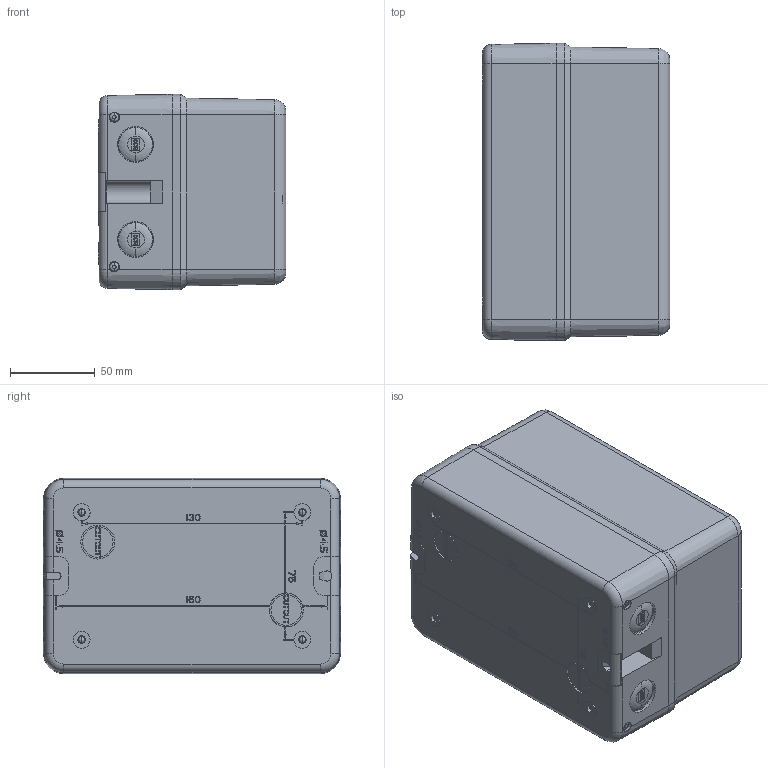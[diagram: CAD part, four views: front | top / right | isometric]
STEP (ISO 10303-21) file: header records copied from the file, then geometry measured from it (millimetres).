
FILE_DESCRIPTION((''),'2;1');
FILE_NAME('32ENSASSYFINAL_ASM','2023-07-17T10:54:39',('design1'),(''),'CREO PARAMETRIC BY PTC INC, 2022284','CREO PARAMETRIC BY PTC INC, 2022284','');
FILE_SCHEMA(('CONFIG_CONTROL_DESIGN'));
Products named in the file (3): 32ENSBOTTOMFINAL; 32AENSTOPFINAL; 32ENSASSYFINAL_ASM
Assembly tree (2 placements, depth 2):
  32ENSASSYFINAL_ASM
    32ENSBOTTOMFINAL
    32AENSTOPFINAL
Bounding box: 110.5 x 175 x 115 mm (x, y, z)
Volume: 292731.9 mm3; surface area: 240879.5 mm2
Topology: 2 solids, 2 shells, 2181 faces, 5960 edges, 3938 vertices
Faces by surface type: plane 1796, cylinder 277, cone 44, bspline 40, torus 24
Entity records: 70941 total; most frequent: CARTESIAN_POINT 15315, ORIENTED_EDGE 11920, DIRECTION 10792, EDGE_CURVE 5960, VECTOR 5140, LINE 5140, VERTEX_POINT 3938, AXIS2_PLACEMENT_3D 2826
